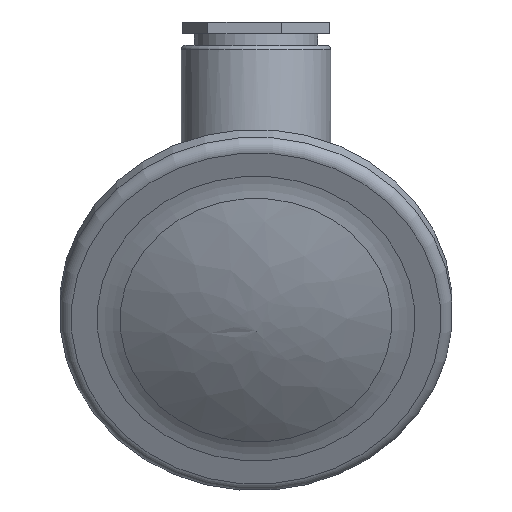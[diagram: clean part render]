
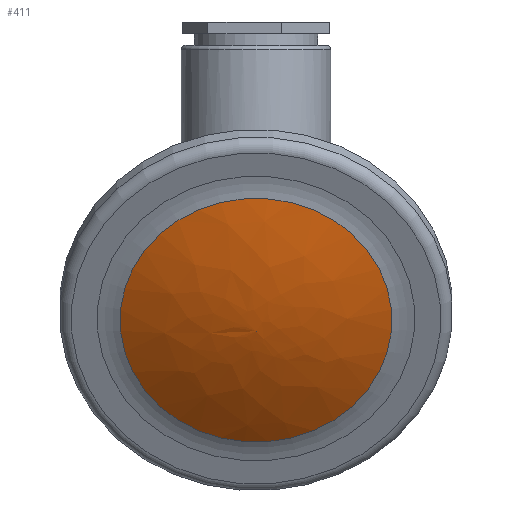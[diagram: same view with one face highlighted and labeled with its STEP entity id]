
A CAD part, left-side view. The second image highlights one B-rep face of the part: STEP entity #411.
In plain terms, the highlighted free-form (B-spline) face has degree [3, 3] with [4, 7] control points.
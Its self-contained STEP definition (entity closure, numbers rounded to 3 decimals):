
#411 = ADVANCED_FACE( '', ( #882, #883 ), #884, .T. );
#882 = FACE_BOUND( '', #2167, .T. );
#883 = FACE_OUTER_BOUND( '', #2168, .T. );
#884 = ( BOUNDED_SURFACE(  )B_SPLINE_SURFACE( 3, 3, ( ( #2171, #2172, #2173, #2174, #2175, #2176, #2177 ), ( #2178, #2179, #2180, #2181, #2182, #2183, #2184 ), ( #2185, #2186, #2187, #2188, #2189, #2190, #2191 ), ( #2192, #2193, #2194, #2195, #2196, #2197, #2198 ) ), .UNSPECIFIED., .F., .T., .F. )B_SPLINE_SURFACE_WITH_KNOTS( ( 4, 4 ), ( 4, 3, 4 ), ( 0., 6.283 ), ( 1.24, 1.39, 1.541 ), .UNSPECIFIED. )GEOMETRIC_REPRESENTATION_ITEM(  )RATIONAL_B_SPLINE_SURFACE( ( ( 1., 0.333, 0.333, 1., 0.333, 0.333, 1. ), ( 0.992, 0.331, 0.331, 0.992, 0.331, 0.331, 0.992 ), ( 0.992, 0.331, 0.331, 0.992, 0.331, 0.331, 0.992 ), ( 1., 0.333, 0.333, 1., 0.333, 0.333, 1. ) ) )REPRESENTATION_ITEM( '' )SURFACE(  ) );
#2167 = VERTEX_LOOP( '', #3264 );
#2168 = EDGE_LOOP( '', ( #3265 ) );
#2171 = CARTESIAN_POINT( '', ( -4.892, 0., -5.716 ) );
#2172 = CARTESIAN_POINT( '', ( -4.892, 0., -5.716 ) );
#2173 = CARTESIAN_POINT( '', ( -4.892, 0., -5.716 ) );
#2174 = CARTESIAN_POINT( '', ( -4.892, 0., -5.716 ) );
#2175 = CARTESIAN_POINT( '', ( -4.892, 0., -5.716 ) );
#2176 = CARTESIAN_POINT( '', ( -4.892, 0., -5.716 ) );
#2177 = CARTESIAN_POINT( '', ( -4.892, 0., -5.716 ) );
#2178 = CARTESIAN_POINT( '', ( -1.184, -0.693, -12.672 ) );
#2179 = CARTESIAN_POINT( '', ( -1.798, -16.451, -11.43 ) );
#2180 = CARTESIAN_POINT( '', ( -8.79, -15.065, 2.692 ) );
#2181 = CARTESIAN_POINT( '', ( -8.175, 0.693, 1.45 ) );
#2182 = CARTESIAN_POINT( '', ( -7.56, 16.451, 0.209 ) );
#2183 = CARTESIAN_POINT( '', ( -0.569, 15.065, -13.914 ) );
#2184 = CARTESIAN_POINT( '', ( -1.184, -0.693, -12.672 ) );
#2185 = CARTESIAN_POINT( '', ( 3.531, -1.375, -18.991 ) );
#2186 = CARTESIAN_POINT( '', ( 2.311, -32.642, -16.527 ) );
#2187 = CARTESIAN_POINT( '', ( -11.561, -29.892, 11.494 ) );
#2188 = CARTESIAN_POINT( '', ( -10.341, 1.375, 9.03 ) );
#2189 = CARTESIAN_POINT( '', ( -9.122, 32.642, 6.567 ) );
#2190 = CARTESIAN_POINT( '', ( 4.75, 29.892, -21.455 ) );
#2191 = CARTESIAN_POINT( '', ( 3.531, -1.375, -18.991 ) );
#2192 = CARTESIAN_POINT( '', ( 9.144, -2.03, -24.53 ) );
#2193 = CARTESIAN_POINT( '', ( 7.343, -48.205, -20.891 ) );
#2194 = CARTESIAN_POINT( '', ( -13.144, -44.145, 20.491 ) );
#2195 = CARTESIAN_POINT( '', ( -11.342, 2.03, 16.852 ) );
#2196 = CARTESIAN_POINT( '', ( -9.541, 48.205, 13.214 ) );
#2197 = CARTESIAN_POINT( '', ( 10.945, 44.145, -28.168 ) );
#2198 = CARTESIAN_POINT( '', ( 9.144, -2.03, -24.53 ) );
#3264 = VERTEX_POINT( '', #3688 );
#3265 = ORIENTED_EDGE( '', *, *, #3385, .T. );
#3385 = EDGE_CURVE( '', #3835, #3835, #3836, .T. );
#3688 = CARTESIAN_POINT( '', ( -4.892, 0., -5.716 ) );
#3835 = VERTEX_POINT( '', #4618 );
#3836 = CIRCLE( '', #4619, 23.177 );
#4618 = CARTESIAN_POINT( '', ( -0.199, 23.088, -5.658 ) );
#4619 = AXIS2_PLACEMENT_3D( '', #6110, #6111, #6112 );
#6110 = CARTESIAN_POINT( '', ( -1.099, 0., -3.839 ) );
#6111 = DIRECTION( '', ( -0.896, 0., -0.444 ) );
#6112 = DIRECTION( '', ( 0.039, 0.996, -0.078 ) );
